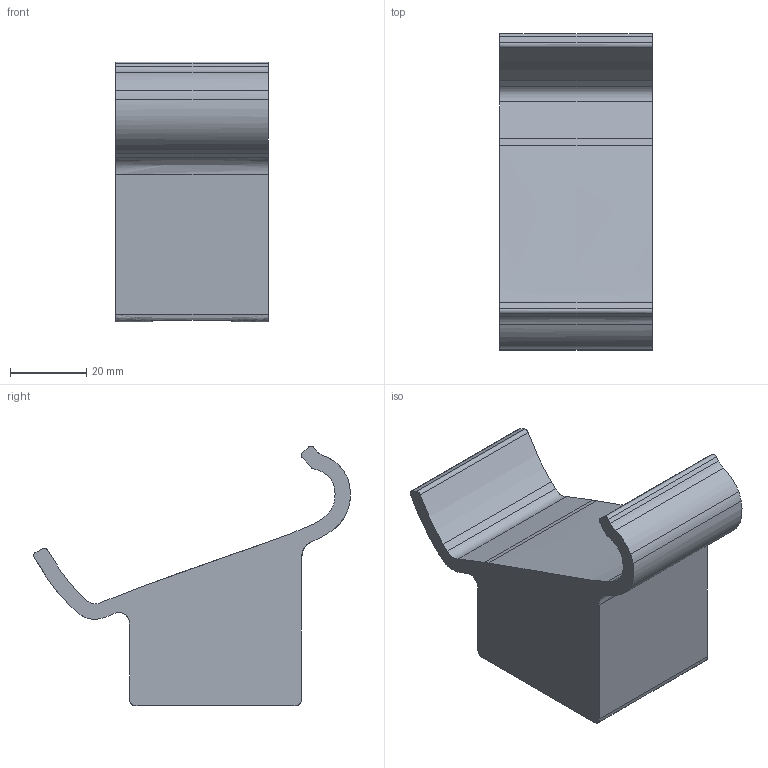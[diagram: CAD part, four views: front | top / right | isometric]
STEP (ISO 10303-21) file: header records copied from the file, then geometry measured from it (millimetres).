
FILE_DESCRIPTION(/* description */ (''),/* implementation_level */ '2;1');
FILE_NAME(/* name */ 'C:/Users/Jake/Desktop/Steam Controller Holder v8.step',/* time_stamp */ '2018-06-11T17:57:22-05:00',/* author */ ('jake2607@gmail.com'),/* organization */ (''),/* preprocessor_version */ 'ST-DEVELOPER v17',/* originating_system */ 'Autodesk Translation Framework v7.1.0.215',/* authorisation */ '');
FILE_SCHEMA (('AUTOMOTIVE_DESIGN { 1 0 10303 214 3 1 1 }'));
Length unit declared in the file: millimetre
Products named in the file (1): Steam Controller Holder
Bounding box: 40 x 82.85 x 67.99 mm (x, y, z)
Volume: 78586.5 mm3; surface area: 15628.2 mm2
Topology: 1 solids, 1 shells, 46 faces, 132 edges, 88 vertices
Faces by surface type: bspline 32, plane 14
Entity records: 3180 total; most frequent: CARTESIAN_POINT 2202, ORIENTED_EDGE 264, EDGE_CURVE 132, VERTEX_POINT 88, B_SPLINE_CURVE_WITH_KNOTS 84, DIRECTION 78, LINE 48, VECTOR 48
